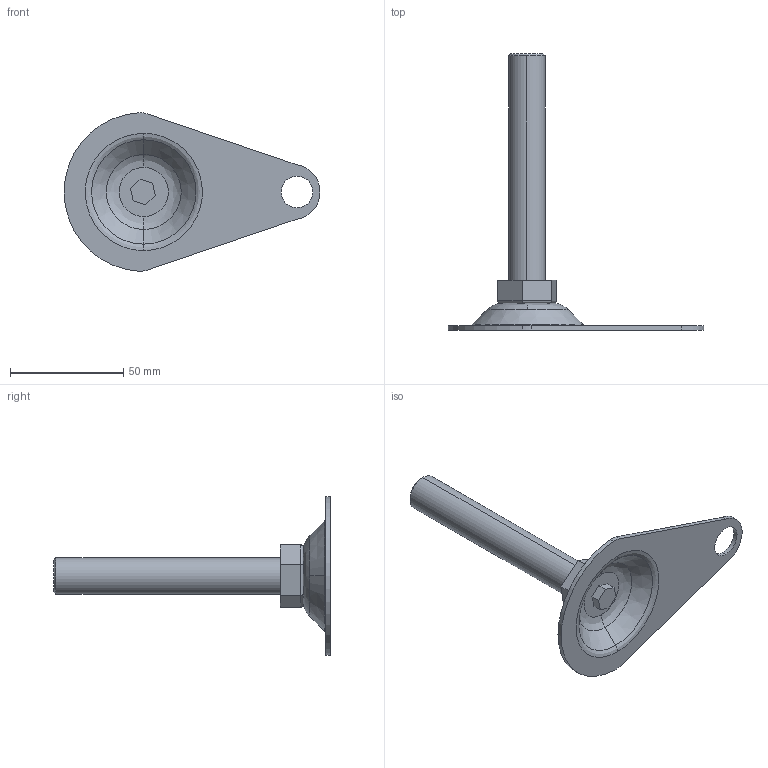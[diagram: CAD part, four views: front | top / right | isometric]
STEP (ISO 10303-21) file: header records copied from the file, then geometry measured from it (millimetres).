
FILE_DESCRIPTION (( 'STEP AP203' ), '1' );
FILE_NAME ('DY-K11516100S.STEP', '2022-05-10T05:40:06', ( '' ), ( '' ), 'SwSTEP 2.0', 'SolidWorks 2017', '' );
FILE_SCHEMA (( 'CONFIG_CONTROL_DESIGN' ));
Length unit declared in the file: millimetre
Products named in the file (1): DY-K11516100S
Bounding box: 112.77 x 122 x 69.89 mm (x, y, z)
Volume: 36505.6 mm3; surface area: 19287.1 mm2
Topology: 3 solids, 3 shells, 60 faces, 137 edges, 88 vertices
Faces by surface type: plane 25, cylinder 21, bspline 8, cone 6
Entity records: 2260 total; most frequent: CARTESIAN_POINT 840, DIRECTION 283, ORIENTED_EDGE 274, EDGE_CURVE 137, AXIS2_PLACEMENT_3D 107, VERTEX_POINT 88, EDGE_LOOP 69, LINE 69
